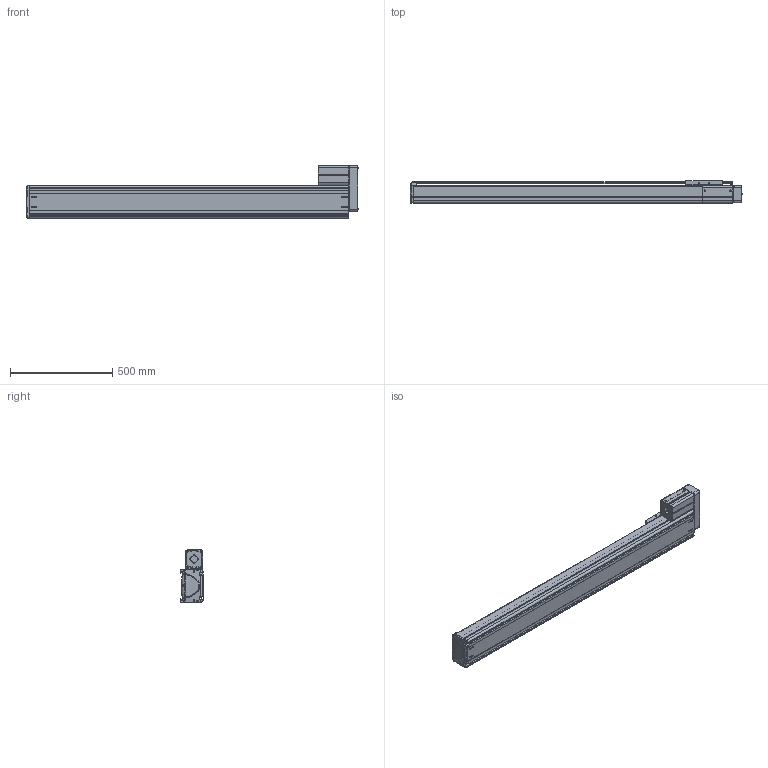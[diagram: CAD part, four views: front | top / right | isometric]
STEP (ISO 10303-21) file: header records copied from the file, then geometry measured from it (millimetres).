
FILE_DESCRIPTION((''),'2;1');
FILE_NAME('BE50F-UR-M_N-D0_IGS_PRT','2017-06-18T',(' '),(''),'PRO/ENGINEER BY PARAMETRIC TECHNOLOGY CORPORATION, 2015030','PRO/ENGINEER BY PARAMETRIC TECHNOLOGY CORPORATION, 2015030','');
FILE_SCHEMA(('CONFIG_CONTROL_DESIGN'));
Length unit declared in the file: millimetre
Products named in the file (1): BE50F-UR-M_N-D0_IGS_PRT
Bounding box: 1625.88 x 110 x 257 mm (x, y, z)
Volume: 6225887.6 mm3; surface area: 2662925.8 mm2
Topology: 7 solids, 155 shells, 2308 faces, 6334 edges, 4155 vertices
Faces by surface type: cylinder 1018, plane 1010, cone 141, torus 59, bspline 48, sphere 32
Entity records: 77062 total; most frequent: CARTESIAN_POINT 17837, DIRECTION 12327, ORIENTED_EDGE 12055, EDGE_CURVE 6296, AXIS2_PLACEMENT_3D 4410, VERTEX_POINT 4151, VECTOR 3507, LINE 3507
